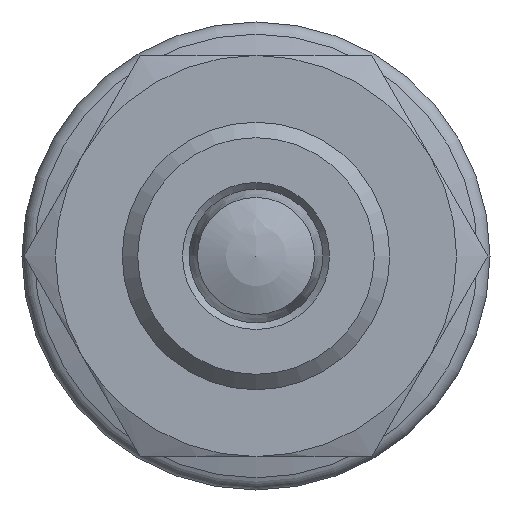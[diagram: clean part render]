
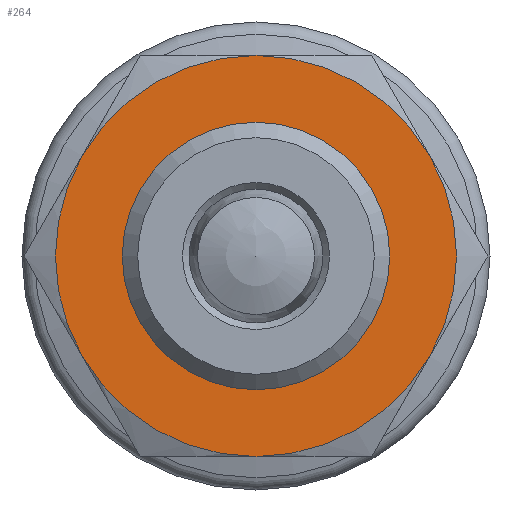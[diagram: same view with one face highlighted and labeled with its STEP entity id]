
A CAD part, left-side view. The second image highlights one B-rep face of the part: STEP entity #264.
In plain terms, the highlighted planar face has unit normal (-1, 0, 0) as drawn and (1, 0, 0) by its records, which use the part's own axes.
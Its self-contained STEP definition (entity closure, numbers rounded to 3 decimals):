
#264 = ADVANCED_FACE( '', ( #455, #456 ), #457, .F. );
#455 = FACE_BOUND( '', #670, .T. );
#456 = FACE_OUTER_BOUND( '', #671, .T. );
#457 = PLANE( '', #672 );
#670 = EDGE_LOOP( '', ( #1053 ) );
#671 = EDGE_LOOP( '', ( #1054, #1055, #1056, #1057, #1058, #1059 ) );
#672 = AXIS2_PLACEMENT_3D( '', #1060, #1061, #1062 );
#1053 = ORIENTED_EDGE( '', *, *, #1277, .F. );
#1054 = ORIENTED_EDGE( '', *, *, #1278, .T. );
#1055 = ORIENTED_EDGE( '', *, *, #1279, .T. );
#1056 = ORIENTED_EDGE( '', *, *, #1280, .T. );
#1057 = ORIENTED_EDGE( '', *, *, #1281, .T. );
#1058 = ORIENTED_EDGE( '', *, *, #1282, .T. );
#1059 = ORIENTED_EDGE( '', *, *, #1283, .T. );
#1060 = CARTESIAN_POINT( '', ( 8., 12., 0. ) );
#1061 = DIRECTION( '', ( -1., 0., 0. ) );
#1062 = DIRECTION( '', ( 0., 0., 1. ) );
#1277 = EDGE_CURVE( '', #1473, #1473, #1474, .T. );
#1278 = EDGE_CURVE( '', #1475, #1476, #1477, .T. );
#1279 = EDGE_CURVE( '', #1476, #1455, #1478, .T. );
#1280 = EDGE_CURVE( '', #1455, #1446, #1479, .T. );
#1281 = EDGE_CURVE( '', #1446, #1467, #1480, .T. );
#1282 = EDGE_CURVE( '', #1467, #1481, #1482, .T. );
#1283 = EDGE_CURVE( '', #1481, #1475, #1483, .T. );
#1446 = VERTEX_POINT( '', #2044 );
#1455 = VERTEX_POINT( '', #2074 );
#1467 = VERTEX_POINT( '', #2112 );
#1473 = VERTEX_POINT( '', #2142 );
#1474 = CIRCLE( '', #2143, 8. );
#1475 = VERTEX_POINT( '', #2144 );
#1476 = VERTEX_POINT( '', #2145 );
#1477 = CIRCLE( '', #2146, 12. );
#1478 = CIRCLE( '', #2147, 12. );
#1479 = CIRCLE( '', #2148, 12. );
#1480 = CIRCLE( '', #2149, 12. );
#1481 = VERTEX_POINT( '', #2150 );
#1482 = CIRCLE( '', #2151, 12. );
#1483 = CIRCLE( '', #2152, 12. );
#2044 = CARTESIAN_POINT( '', ( 8., 0., 12. ) );
#2074 = CARTESIAN_POINT( '', ( 8., 10.392, 6. ) );
#2112 = CARTESIAN_POINT( '', ( 8., -10.392, 6. ) );
#2142 = CARTESIAN_POINT( '', ( 8., 0., -8. ) );
#2143 = AXIS2_PLACEMENT_3D( '', #2415, #2416, #2417 );
#2144 = CARTESIAN_POINT( '', ( 8., 0., -12. ) );
#2145 = CARTESIAN_POINT( '', ( 8., 10.392, -6. ) );
#2146 = AXIS2_PLACEMENT_3D( '', #2418, #2419, #2420 );
#2147 = AXIS2_PLACEMENT_3D( '', #2421, #2422, #2423 );
#2148 = AXIS2_PLACEMENT_3D( '', #2424, #2425, #2426 );
#2149 = AXIS2_PLACEMENT_3D( '', #2427, #2428, #2429 );
#2150 = CARTESIAN_POINT( '', ( 8., -10.392, -6. ) );
#2151 = AXIS2_PLACEMENT_3D( '', #2430, #2431, #2432 );
#2152 = AXIS2_PLACEMENT_3D( '', #2433, #2434, #2435 );
#2415 = CARTESIAN_POINT( '', ( 8., 0., 0. ) );
#2416 = DIRECTION( '', ( 1., 0., 0. ) );
#2417 = DIRECTION( '', ( 0., 0., -1. ) );
#2418 = CARTESIAN_POINT( '', ( 8., 0., 0. ) );
#2419 = DIRECTION( '', ( 1., 0., 0. ) );
#2420 = DIRECTION( '', ( 0., 0., -1. ) );
#2421 = CARTESIAN_POINT( '', ( 8., 0., 0. ) );
#2422 = DIRECTION( '', ( 1., 0., 0. ) );
#2423 = DIRECTION( '', ( 0., 0., -1. ) );
#2424 = CARTESIAN_POINT( '', ( 8., 0., 0. ) );
#2425 = DIRECTION( '', ( 1., 0., 0. ) );
#2426 = DIRECTION( '', ( 0., 0., -1. ) );
#2427 = CARTESIAN_POINT( '', ( 8., 0., 0. ) );
#2428 = DIRECTION( '', ( 1., 0., 0. ) );
#2429 = DIRECTION( '', ( 0., 0., -1. ) );
#2430 = CARTESIAN_POINT( '', ( 8., 0., 0. ) );
#2431 = DIRECTION( '', ( 1., 0., 0. ) );
#2432 = DIRECTION( '', ( 0., 0., -1. ) );
#2433 = CARTESIAN_POINT( '', ( 8., 0., 0. ) );
#2434 = DIRECTION( '', ( 1., 0., 0. ) );
#2435 = DIRECTION( '', ( 0., 0., -1. ) );
